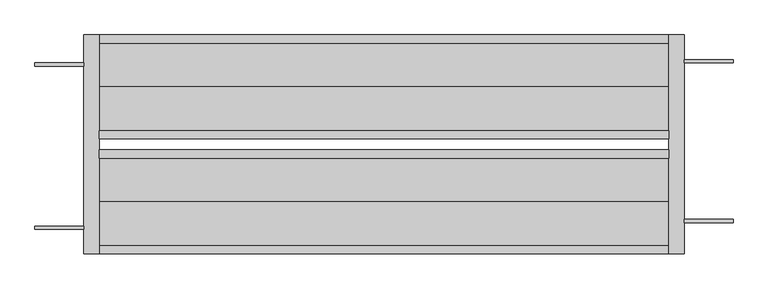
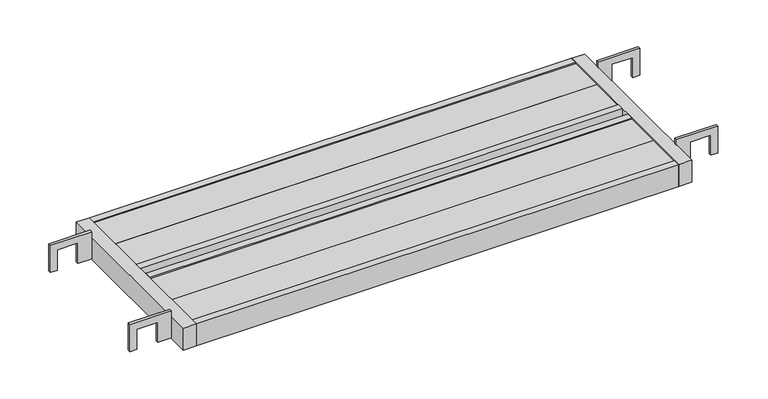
"""IFC4 building model written with IfcOpenShell, lengths in millimetres: proxy geometry, AKK布板HF-412_斜線なし_軽 : 鋼製布板 HF-412."""

from ifc_helpers import new_model, si_unit, frame, origin, place, context, project, spatial, polyline, outline, extrude, source, transform, mapped, element, save


def generic_models_9ef94eaa(model_context):
    return source(origin(), model_context, "Body", "SweptSolid", [
        extrude(outline(polyline([(37.5, 1157.5), (-24.1, 1157.5), (-24.1, 1187.0), (22.0, 1187.0), (22.0, 1232.0), (-24.1, 1232.0), (-24.1, 1247.0), (37.5, 1247.0), (37.5, 1157.5)])), frame((0.0, 63.0, 0.0), z_axis=(0.0, 1.0, 0.0), x_axis=(0.0, 0.0, 1.0)), (0.0, 0.0, 1.0), 6.0),
        extrude(outline(polyline([(37.5, 1157.5), (-24.1, 1157.5), (-24.1, 1187.0), (22.0, 1187.0), (22.0, 1232.0), (-24.1, 1232.0), (-24.1, 1247.0), (37.5, 1247.0), (37.5, 1157.5)])), frame((0.0, 355.0, 0.0), z_axis=(0.0, 1.0, 0.0), x_axis=(0.0, 0.0, 1.0)), (0.0, 0.0, 1.0), 6.0),
        extrude(outline(polyline([(37.5, -28.0), (-24.1, -28.0), (-24.1, -13.0), (22.0, -13.0), (22.0, 32.0), (-24.1, 32.0), (-24.1, 61.5), (37.5, 61.5), (37.5, -28.0)])), frame((0.0, 51.0, 0.0), z_axis=(0.0, 1.0, 0.0), x_axis=(0.0, 0.0, 1.0)), (0.0, 0.0, 1.0), 6.0),
        extrude(outline(polyline([(37.5, -28.0), (-24.1, -28.0), (-24.1, -13.0), (22.0, -13.0), (22.0, 32.0), (-24.1, 32.0), (-24.1, 61.5), (37.5, 61.5), (37.5, -28.0)])), frame((0.0, 349.0, 0.0), z_axis=(0.0, 1.0, 0.0), x_axis=(0.0, 0.0, 1.0)), (0.0, 0.0, 1.0), 6.0),
        extrude(outline(polyline([(1129.5, 231.0), (1129.5, 216.0), (89.5, 216.0), (89.5, 231.0), (1129.5, 231.0)])), frame((0.0, 0.0, -25.0), z_axis=(0.0, 0.0, 1.0), x_axis=(1.0, 0.0, 0.0)), (0.0, 0.0, 1.0), 50.0),
        extrude(outline(polyline([(1129.5, 101.0), (1129.5, 21.0), (89.5, 21.0), (89.5, 101.0), (1129.5, 101.0)])), frame((0.0, 0.0, 17.5), z_axis=(0.0, 0.0, 1.0), x_axis=(1.0, 0.0, 0.0)), (0.0, 0.0, 1.0), 5.0),
        extrude(outline(polyline([(1129.5, 181.0), (1129.5, 101.0), (89.5, 101.0), (89.5, 181.0), (1129.5, 181.0)])), frame((0.0, 0.0, 17.5), z_axis=(0.0, 0.0, 1.0), x_axis=(1.0, 0.0, 0.0)), (0.0, 0.0, 1.0), 5.0),
        extrude(outline(polyline([(1129.5, 311.0), (1129.5, 231.0), (89.5, 231.0), (89.5, 311.0), (1129.5, 311.0)])), frame((0.0, 0.0, 17.5), z_axis=(0.0, 0.0, 1.0), x_axis=(1.0, 0.0, 0.0)), (0.0, 0.0, 1.0), 5.0),
        extrude(outline(polyline([(1129.5, 391.0), (1129.5, 311.0), (89.5, 311.0), (89.5, 391.0), (1129.5, 391.0)])), frame((0.0, 0.0, 17.5), z_axis=(0.0, 0.0, 1.0), x_axis=(1.0, 0.0, 0.0)), (0.0, 0.0, 1.0), 5.0),
        extrude(outline(polyline([(1129.5, 196.0), (1129.5, 181.0), (89.5, 181.0), (89.5, 196.0), (1129.5, 196.0)])), frame((0.0, 0.0, -25.0), z_axis=(0.0, 0.0, 1.0), x_axis=(1.0, 0.0, 0.0)), (0.0, 0.0, 1.0), 50.0),
        extrude(outline(polyline([(1129.5, 6.0), (1129.5, 406.0), (1157.5, 406.0), (1157.5, 6.0), (1129.5, 6.0)])), frame((0.0, 0.0, -25.0), z_axis=(0.0, 0.0, 1.0), x_axis=(1.0, 0.0, 0.0)), (0.0, 0.0, 1.0), 50.0),
        extrude(outline(polyline([(61.5, 6.0), (61.5, 406.0), (89.5, 406.0), (89.5, 6.0), (61.5, 6.0)])), frame((0.0, 0.0, -25.0), z_axis=(0.0, 0.0, 1.0), x_axis=(1.0, 0.0, 0.0)), (0.0, 0.0, 1.0), 50.0),
        extrude(outline(polyline([(1129.5, 406.0), (1129.5, 391.0), (89.5, 391.0), (89.5, 406.0), (1129.5, 406.0)])), frame((0.0, 0.0, -25.0), z_axis=(0.0, 0.0, 1.0), x_axis=(1.0, 0.0, 0.0)), (0.0, 0.0, 1.0), 50.0),
        extrude(outline(polyline([(1129.5, 21.0), (1129.5, 6.0), (89.5, 6.0), (89.5, 21.0), (1129.5, 21.0)])), frame((0.0, 0.0, -25.0), z_axis=(0.0, 0.0, 1.0), x_axis=(1.0, 0.0, 0.0)), (0.0, 0.0, 1.0), 50.0),
    ])


if __name__ == "__main__":
    model = new_model("IFC4")
    model_context = context("Model", 3, world=origin())
    ifc_project = project(units=[si_unit("LENGTHUNIT", "METRE", prefix="MILLI")], contexts=[model_context])
    site = spatial("IfcSite", under=ifc_project)
    building = spatial("IfcBuilding", under=site)
    placement = place(None, origin())
    generic_models_shape = generic_models_9ef94eaa(model_context)
    element("IfcBuildingElementProxy", 1, Name="AKK布板HF-412_斜線なし_軽 : 鋼製布板 HF-412", ObjectType="AKK布板HF-412_斜線なし_軽 : 鋼製布板 HF-412", at=placement, inside=building, context=model_context, shape_type="MappedRepresentation", body=[
        mapped(generic_models_shape, transform((0.0, 0.0, 0.0), x_axis=(1.0, 0.0, 0.0), y_axis=(0.0, 1.0, 0.0), z_axis=(0.0, 0.0, 1.0))),
    ])
    save(model, "model.ifc")
